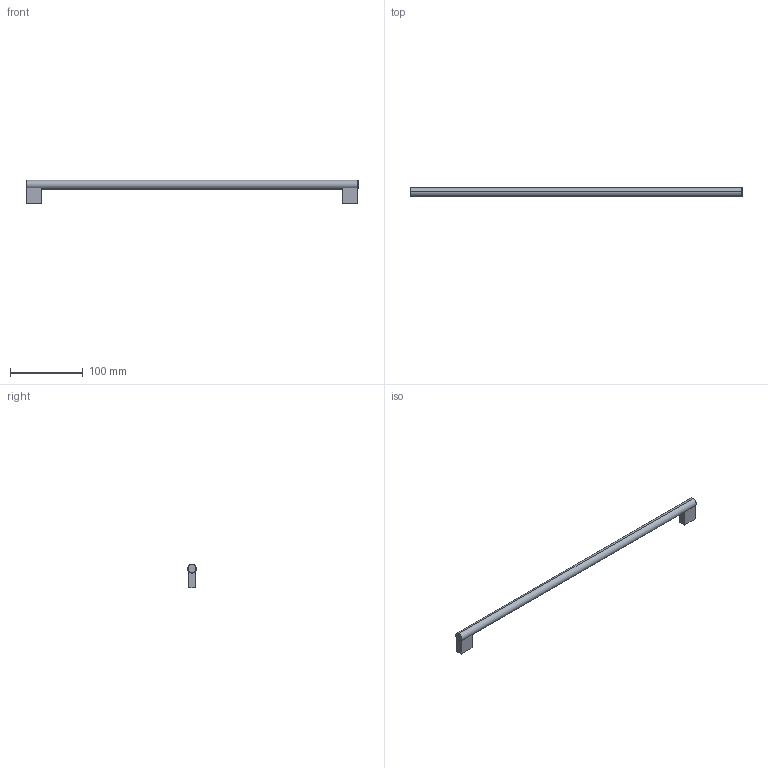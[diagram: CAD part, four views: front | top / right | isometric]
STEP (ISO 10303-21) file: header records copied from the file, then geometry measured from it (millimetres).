
FILE_DESCRIPTION( ( '' ), '1' );
FILE_NAME( 'D:/temp/hettich_stp/hettich/prodecor_handles/organic/ 115252.stp', '2013-02-26T12:49:48', ( '' ), ( '' ), ' ', ' ', ' ' );
FILE_SCHEMA( ( 'automotive_design' ) );
Length unit declared in the file: millimetre
Products named in the file (1): 1
Bounding box: 456 x 11.97 x 32 mm (x, y, z)
Volume: 58966.2 mm3; surface area: 20252.1 mm2
Topology: 1 solids, 1 shells, 24 faces, 54 edges, 34 vertices
Faces by surface type: plane 14, cylinder 6, cone 4
Entity records: 1330 total; most frequent: DIRECTION 128, STYLED_ITEM 113, PRESENTATION_STYLE_ASSIGNMENT 113, CARTESIAN_POINT 113, COLOUR_RGB 113, ORIENTED_EDGE 108, EDGE_CURVE 54, CURVE_STYLE 54
